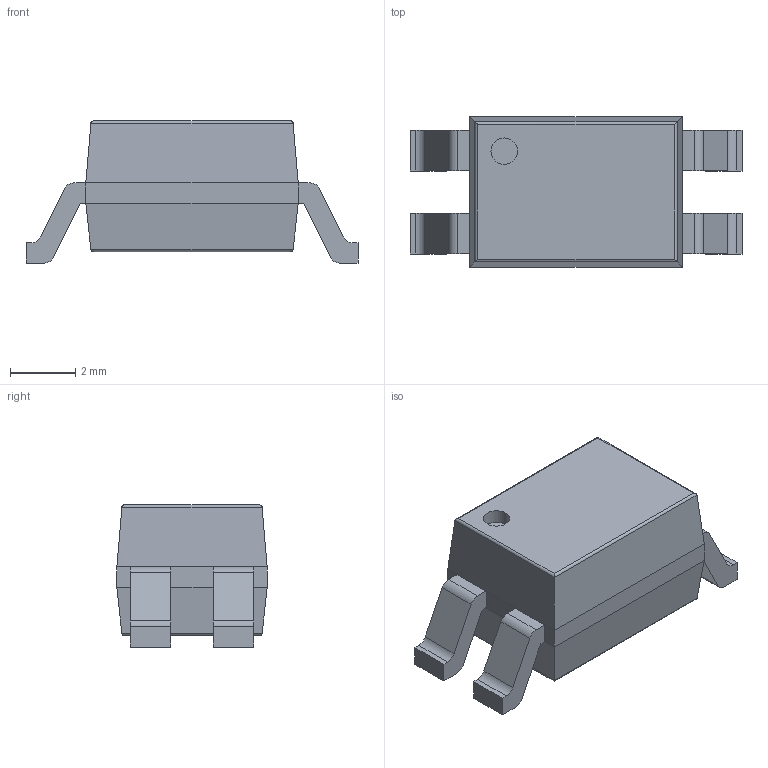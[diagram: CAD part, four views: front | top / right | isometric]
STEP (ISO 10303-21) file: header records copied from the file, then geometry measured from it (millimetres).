
FILE_DESCRIPTION(('FreeCAD Model'),'2;1');
FILE_NAME('/var/www/3D/0T/1026346.1.1.stp','2018-11-26T14:01:36',( 'Author'),(''),'Open CASCADE STEP processor 6.8','FreeCAD','Unknown' );
FILE_SCHEMA(('AUTOMOTIVE_DESIGN_CC2 { 1 2 10303 214 -1 1 5 4 }'));
Length unit declared in the file: millimetre
Products named in the file (3): ASSEMBLY; Body; PinsArrayLR
Assembly tree (2 placements, depth 2):
  ASSEMBLY
    Body
    PinsArrayLR
Bounding box: 10.16 x 4.6 x 4.35 mm (x, y, z)
Volume: 122.6 mm3; surface area: 189.7 mm2
Topology: 5 solids, 5 shells, 76 faces, 179 edges, 114 vertices
Faces by surface type: plane 55, cylinder 21
Full cylindrical faces by diameter (mm): 0.812 x1
Entity records: 4685 total; most frequent: CARTESIAN_POINT 940, DIRECTION 691, LINE 451, VECTOR 451, ORIENTED_EDGE 358, PCURVE 358, DEFINITIONAL_REPRESENTATION 358, EDGE_CURVE 179
